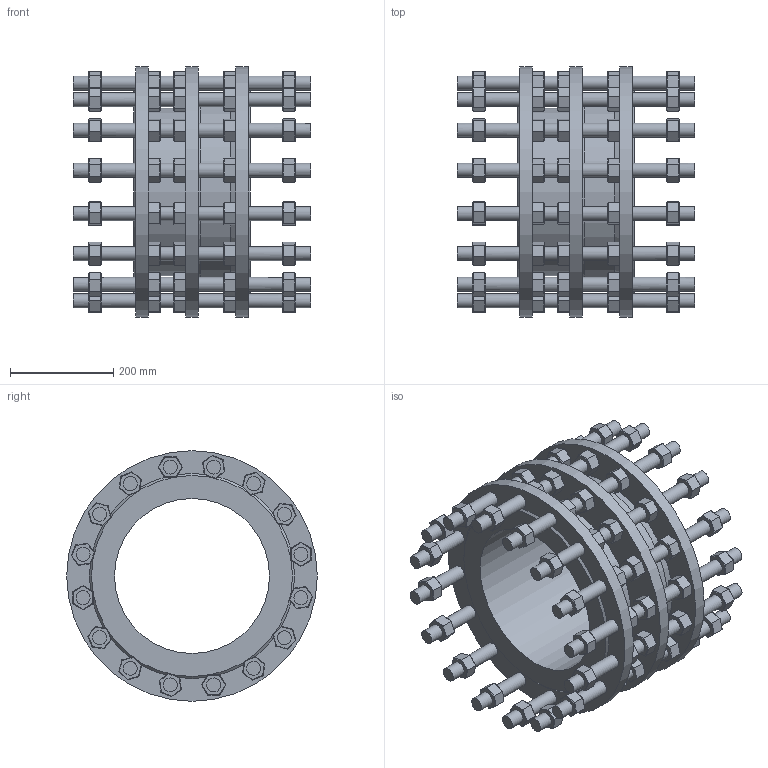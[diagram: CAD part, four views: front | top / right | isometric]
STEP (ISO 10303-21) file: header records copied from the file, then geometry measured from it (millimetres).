
FILE_DESCRIPTION (( 'STEP AP203' ), '1' );
FILE_NAME ('873030000741000.STEP', '2021-11-05T09:28:02', ( '' ), ( '' ), 'SwSTEP 2.0', 'SolidWorks 2020', '' );
FILE_SCHEMA (( 'CONFIG_CONTROL_DESIGN' ));
Length unit declared in the file: millimetre
Products named in the file (1): 873030000741000
Bounding box: 460 x 485 x 485 mm (x, y, z)
Volume: 16622864.6 mm3; surface area: 2116723 mm2
Topology: 81 solids, 81 shells, 1955 faces, 4203 edges, 2449 vertices
Faces by surface type: plane 1641, cone 163, cylinder 151
Full cylindrical faces by diameter (mm): 24 x80, 27 x64, 300 x1, 325 x1, 350 x1, 366 x1, 485 x3
Entity records: 49073 total; most frequent: DIRECTION 8206, CARTESIAN_POINT 8170, ORIENTED_EDGE 7654, EDGE_CURVE 3827, LINE 3360, VECTOR 3360, EDGE_LOOP 2534, AXIS2_PLACEMENT_3D 2423
